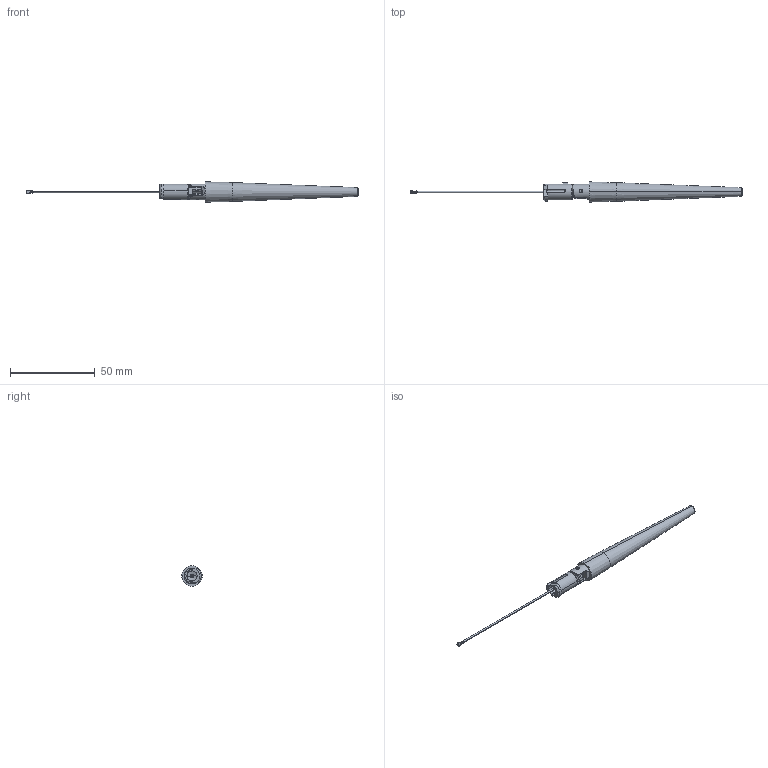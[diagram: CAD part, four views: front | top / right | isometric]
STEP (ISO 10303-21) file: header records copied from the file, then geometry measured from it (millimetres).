
FILE_DESCRIPTION((''),'2;1');
FILE_NAME('X9001958_ME_FIT','2024-04-08T17:19:24',('ycollin'),(''),'CREO PARAMETRIC BY PTC INC, 2023072','CREO PARAMETRIC BY PTC INC, 2023072','');
FILE_SCHEMA(('CONFIG_CONTROL_DESIGN'));
Length unit declared in the file: millimetre
Products named in the file (1): X9001958_ME_FIT
Bounding box: 195.9 x 12 x 12 mm (x, y, z)
Volume: 6597.6 mm3; surface area: 5475.3 mm2
Topology: 2 solids, 6 shells, 690 faces, 1801 edges, 1129 vertices
Faces by surface type: plane 355, cylinder 163, cone 80, bspline 43, torus 37, sphere 8, extrusion 4
Entity records: 22885 total; most frequent: CARTESIAN_POINT 6471, ORIENTED_EDGE 3577, DIRECTION 3164, EDGE_CURVE 1801, VERTEX_POINT 1130, AXIS2_PLACEMENT_3D 1078, VECTOR 1008, LINE 1004
